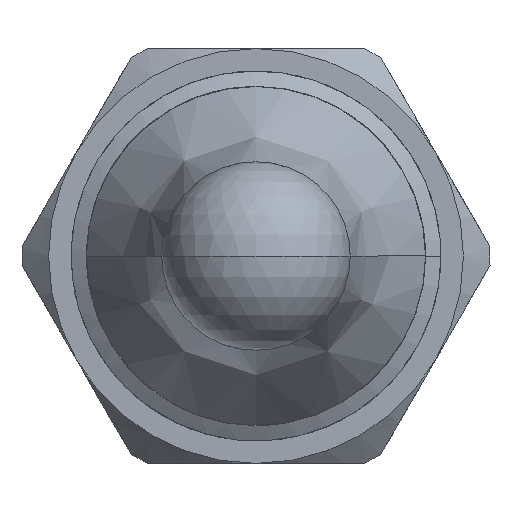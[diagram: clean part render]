
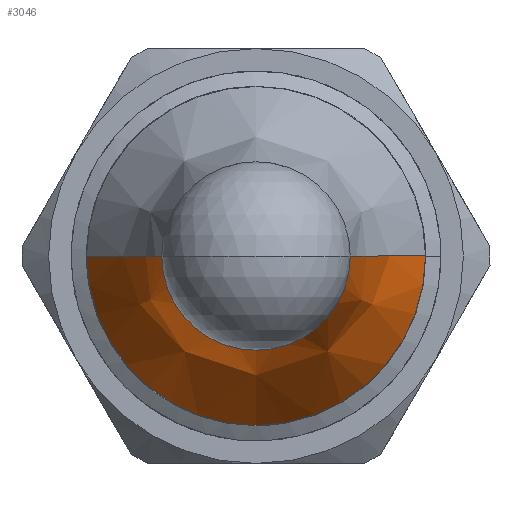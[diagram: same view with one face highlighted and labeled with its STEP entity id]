
A CAD part, front view. The second image highlights one B-rep face of the part: STEP entity #3046.
In plain terms, the highlighted free-form (B-spline) face has degree [2, 3] with [3, 4] control points.
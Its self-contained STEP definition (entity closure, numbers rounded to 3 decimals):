
#204 = CARTESIAN_POINT ( 'NONE',  ( 5.664, -243.124, -11.328 ) ) ;
#240 = CARTESIAN_POINT ( 'NONE',  ( 8.99, -238.8, 0. ) ) ;
#302 = EDGE_CURVE ( 'NONE', #441, #3059, #2038, .T. ) ;
#357 = CARTESIAN_POINT ( 'NONE',  ( -8.99, -238.8, 0. ) ) ;
#441 = VERTEX_POINT ( 'NONE', #4836 ) ;
#610 = CARTESIAN_POINT ( 'NONE',  ( -5., -248., 0. ) ) ;
#656 = CARTESIAN_POINT ( 'NONE',  ( -5., -248., -10. ) ) ;
#666 = CARTESIAN_POINT ( 'NONE',  ( 0., -248., 0. ) ) ;
#708 = CARTESIAN_POINT ( 'NONE',  ( -5., -248., 0. ) ) ;
#772 = CARTESIAN_POINT ( 'NONE',  ( 5.664, -243.124, 0. ) ) ;
#897 = AXIS2_PLACEMENT_3D ( 'NONE', #666, #2906, #1377 ) ;
#983 = CARTESIAN_POINT ( 'NONE',  ( -5., -248., 0. ) ) ;
#1377 = DIRECTION ( 'NONE',  ( -1., 0., 0. ) ) ;
#1391 = CARTESIAN_POINT ( 'NONE',  ( 5., -248., 0. ) ) ;
#1418 = FACE_OUTER_BOUND ( 'NONE', #2934, .T. ) ;
#1752 = DIRECTION ( 'NONE',  ( -1., 0., 0. ) ) ;
#1753 = CARTESIAN_POINT ( 'NONE',  ( -5.664, -243.124, 0. ) ) ;
#2038 = CIRCLE ( 'NONE', #897, 5. ) ;
#2209 = CARTESIAN_POINT ( 'NONE',  ( -8.99, -238.8, -17.98 ) ) ;
#2372 = ORIENTED_EDGE ( 'NONE', *, *, #4739, .F. ) ;
#2396 = VERTEX_POINT ( 'NONE', #3323 ) ;
#2588 = CARTESIAN_POINT ( 'NONE',  ( 8.99, -238.8, -17.98 ) ) ;
#2604 = ORIENTED_EDGE ( 'NONE', *, *, #2989, .T. ) ;
#2679 = CARTESIAN_POINT ( 'NONE',  ( 8.99, -238.8, 0. ) ) ;
#2711 = B_SPLINE_CURVE_WITH_KNOTS ( 'NONE', 2,
 ( #2679, #4470, #3727 ),
 .UNSPECIFIED., .F., .F.,
 ( 3, 3 ),
 ( 0., 0.667 ),
 .UNSPECIFIED. ) ;
#2790 = ORIENTED_EDGE ( 'NONE', *, *, #3674, .F. ) ;
#2906 = DIRECTION ( 'NONE',  ( 0., 1., 0. ) ) ;
#2934 = EDGE_LOOP ( 'NONE', ( #2372, #2604, #4333, #2790 ) ) ;
#2941 = CARTESIAN_POINT ( 'NONE',  ( 0., -238.8, 0. ) ) ;
#2989 = EDGE_CURVE ( 'NONE', #4281, #441, #2711, .T. ) ;
#3046 = ADVANCED_FACE ( 'NONE', ( #1418 ), #4035, .T. ) ;
#3059 = VERTEX_POINT ( 'NONE', #610 ) ;
#3270 = DIRECTION ( 'NONE',  ( 0., 1., 0. ) ) ;
#3323 = CARTESIAN_POINT ( 'NONE',  ( -8.99, -238.8, 0. ) ) ;
#3514 = CIRCLE ( 'NONE', #4170, 8.99 ) ;
#3674 = EDGE_CURVE ( 'NONE', #2396, #3059, #3893, .T. ) ;
#3727 = CARTESIAN_POINT ( 'NONE',  ( 5., -248., 0. ) ) ;
#3729 = CARTESIAN_POINT ( 'NONE',  ( -5.664, -243.124, 0. ) ) ;
#3893 = B_SPLINE_CURVE_WITH_KNOTS ( 'NONE', 2,
 ( #357, #3729, #708 ),
 .UNSPECIFIED., .F., .F.,
 ( 3, 3 ),
 ( 0., 0.667 ),
 .UNSPECIFIED. ) ;
#4035 =( BOUNDED_SURFACE ( )  B_SPLINE_SURFACE ( 2, 3, ( 
 ( #4258, #2588, #2209, #4876 ),
 ( #772, #204, #4850, #1753 ),
 ( #1391, #4140, #656, #983 ) ),
 .UNSPECIFIED., .F., .F., .T. ) 
 B_SPLINE_SURFACE_WITH_KNOTS ( ( 3, 3 ),
 ( 4, 4 ),
 ( 0., 0.667 ),
 ( 0., 1. ),
 .UNSPECIFIED. ) 
 GEOMETRIC_REPRESENTATION_ITEM ( )  RATIONAL_B_SPLINE_SURFACE ( (
 ( 1., 0.333, 0.333, 1.),
 ( 1., 0.333, 0.333, 1.),
 ( 1., 0.333, 0.333, 1.) ) ) 
 REPRESENTATION_ITEM ( '' )  SURFACE ( )  );
#4140 = CARTESIAN_POINT ( 'NONE',  ( 5., -248., -10. ) ) ;
#4170 = AXIS2_PLACEMENT_3D ( 'NONE', #2941, #3270, #1752 ) ;
#4258 = CARTESIAN_POINT ( 'NONE',  ( 8.99, -238.8, 0. ) ) ;
#4281 = VERTEX_POINT ( 'NONE', #240 ) ;
#4333 = ORIENTED_EDGE ( 'NONE', *, *, #302, .T. ) ;
#4470 = CARTESIAN_POINT ( 'NONE',  ( 5.664, -243.124, 0. ) ) ;
#4739 = EDGE_CURVE ( 'NONE', #4281, #2396, #3514, .T. ) ;
#4836 = CARTESIAN_POINT ( 'NONE',  ( 5., -248., 0. ) ) ;
#4850 = CARTESIAN_POINT ( 'NONE',  ( -5.664, -243.124, -11.328 ) ) ;
#4876 = CARTESIAN_POINT ( 'NONE',  ( -8.99, -238.8, 0. ) ) ;
